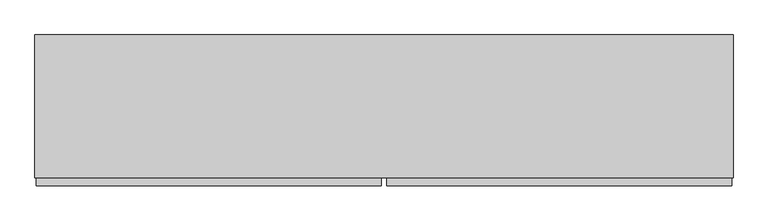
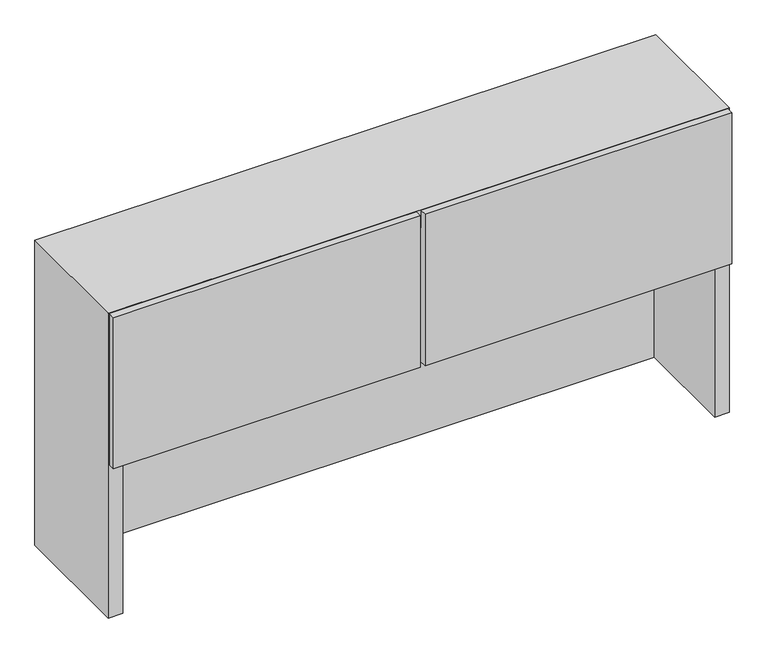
"""IFC4 building model written with IfcOpenShell, lengths in millimetres: furniture geometry, Haworth_XSeries_VerticalStorage : 14d 34h 66w - Flipper Doors."""

import ifcopenshell
import ifcopenshell.guid

model = None  # the IFC model being written
_history = None  # IfcOwnerHistory: only IFC2X3 demands one
_inside = {}  # id of a spatial element -> (the spatial element, [elements in it])
_under = {}  # id of a project, library or spatial element -> (it, [spatial elements below it])
_declared = {}  # id of a project -> (the project, [libraries it declares])
_typed = {}  # id of a type object -> (the type object, [elements of that type])
_made_of = {}  # id of a material, layer set ... -> (it, [elements and type objects made of it])


def new_model(schema):
    """Start an empty IFC model of exactly this schema.

    Asked for "IFC4X3", IfcOpenShell would pick the latest addendum, in which some entities
    have other attributes; the version numbers below select the first issue.
    IFC2X3 requires an IfcOwnerHistory on every rooted entity: one is made here for all.
    """
    global model, _history
    if schema == "IFC4X3":
        model = ifcopenshell.file(schema_version=(4, 3, 0, 0))
    else:
        model = ifcopenshell.file(schema=schema)
    _inside.clear()
    _under.clear()
    _declared.clear()
    _typed.clear()
    _made_of.clear()
    _history = None
    if model.schema == "IFC2X3":
        org = make("IfcOrganization", Name="unknown")
        user = make(
            "IfcPersonAndOrganization",
            ThePerson=make("IfcPerson", FamilyName="unknown"),
            TheOrganization=org,
        )
        app = make(
            "IfcApplication",
            ApplicationDeveloper=org,
            Version="unknown",
            ApplicationFullName="unknown",
            ApplicationIdentifier="unknown",
        )
        _history = make(
            "IfcOwnerHistory",
            OwningUser=user,
            OwningApplication=app,
            ChangeAction="ADDED",
            CreationDate=0,
        )
    return model


def make(cls, **values):
    """One entity of the class cls with the attributes given. An attribute that is None is left unset."""
    return model.create_entity(
        cls, **{name: value for name, value in values.items() if value is not None}
    )


def rooted(cls, **values):
    """An entity with a GlobalId (a new one), such as an element, a storey or a relation."""
    return make(cls, GlobalId=ifcopenshell.guid.new(), OwnerHistory=_history, **values)


def si_unit(unit_type, name, prefix=None):
    """IfcSIUnit, for example si_unit("LENGTHUNIT", "METRE", prefix="MILLI")."""
    return make("IfcSIUnit", UnitType=unit_type, Prefix=prefix, Name=name)


def assignment(units):
    """IfcUnitAssignment: the units of a project."""
    return None if units is None else make("IfcUnitAssignment", Units=units)


def point(xyz):
    """IfcCartesianPoint."""
    return None if xyz is None else make("IfcCartesianPoint", Coordinates=xyz)


def direction(xyz):
    """IfcDirection."""
    return None if xyz is None else make("IfcDirection", DirectionRatios=xyz)


def frame(location, z_axis=None, x_axis=None):
    """IfcAxis2Placement3D, a coordinate frame: its origin and axes. An axis left out is left unset."""
    return make(
        "IfcAxis2Placement3D",
        Location=point(location),
        Axis=direction(z_axis),
        RefDirection=direction(x_axis),
    )


def origin():
    """The frame at (0, 0, 0) with its axes left unset."""
    return frame((0.0, 0.0, 0.0))


def place(relative_to, where):
    """IfcLocalPlacement: puts the frame where relative to a parent placement (None: the world)."""
    return make(
        "IfcLocalPlacement", PlacementRelTo=relative_to, RelativePlacement=where
    )


def context(
    kind, dimensions, precision=None, world=None, true_north=None, identifier=None
):
    """IfcGeometricRepresentationContext, for example the 3D "Model" context."""
    return make(
        "IfcGeometricRepresentationContext",
        ContextIdentifier=identifier,
        ContextType=kind,
        CoordinateSpaceDimension=dimensions,
        Precision=precision,
        WorldCoordinateSystem=world,
        TrueNorth=true_north,
    )


def project(units=None, contexts=None):
    """IfcProject with its units and contexts."""
    return rooted(
        "IfcProject",
        Name="project",
        RepresentationContexts=contexts,
        UnitsInContext=assignment(units),
    )


def spatial(cls, under=None, at=None, **own):
    """A site, building, storey or space (cls), placed at a placement, below another one or the project."""
    s = rooted(cls, ObjectPlacement=at, **own)
    if under is not None:
        _under.setdefault(under.id(), (under, []))[1].append(s)
    return s


def polyline(points):
    """IfcPolyline through the points."""
    return make("IfcPolyline", Points=[point(p) for p in points])


def outline(outer, holes=None, kind="AREA"):
    """IfcArbitraryClosedProfileDef: a profile drawn as a closed curve; with holes, ...WithVoids."""
    if holes is None:
        return make("IfcArbitraryClosedProfileDef", ProfileType=kind, OuterCurve=outer)
    return make(
        "IfcArbitraryProfileDefWithVoids",
        ProfileType=kind,
        OuterCurve=outer,
        InnerCurves=holes,
    )


def extrude(swept, where, along, depth):
    """IfcExtrudedAreaSolid: the profile swept, set in the frame where, extruded along a direction by depth."""
    return make(
        "IfcExtrudedAreaSolid",
        SweptArea=swept,
        Position=where,
        ExtrudedDirection=direction(along),
        Depth=depth,
    )


def faces_of(points, faces, orient=None, outer=None):
    """IfcFace entities. A face is a list of loops; a loop is a list of indices into points, from 0.

    orient and outer hold one flag for each loop. By default every Orientation is true, the
    first loop of a face is its IfcFaceOuterBound and the others are IfcFaceBound.
    """
    made = []
    for i, loops in enumerate(faces):
        bounds = []
        for j, loop in enumerate(loops):
            is_outer = j == 0 if outer is None else outer[i][j]
            bounds.append(
                make(
                    "IfcFaceOuterBound" if is_outer else "IfcFaceBound",
                    Bound=make("IfcPolyLoop", Polygon=[points[k] for k in loop]),
                    Orientation=True if orient is None else orient[i][j],
                )
            )
        made.append(make("IfcFace", Bounds=bounds))
    return made


def faceted_brep(points, faces, orient=None, outer=None, voids=None):
    """IfcFacetedBrep: a solid bounded by flat faces; with voids (closed shells), ...WithVoids."""
    shared = [point(p) for p in points]
    hull = make("IfcClosedShell", CfsFaces=faces_of(shared, faces, orient, outer))
    if voids is None:
        return make("IfcFacetedBrep", Outer=hull)
    return make(
        "IfcFacetedBrepWithVoids",
        Outer=hull,
        Voids=[
            make(cls, CfsFaces=faces_of(shared, fs, o, b)) for cls, fs, o, b in voids
        ],
    )


def shape(context_of_items, identifier, shape_type, items):
    """IfcShapeRepresentation: the items that make up one representation, for example the "Body"."""
    return make(
        "IfcShapeRepresentation",
        ContextOfItems=context_of_items,
        RepresentationIdentifier=identifier,
        RepresentationType=shape_type,
        Items=items,
    )


def source(mapping_origin, context_of_items, identifier, shape_type, items):
    """IfcRepresentationMap: a shape defined once, which mapped items show again and again."""
    return make(
        "IfcRepresentationMap",
        MappingOrigin=mapping_origin,
        MappedRepresentation=shape(context_of_items, identifier, shape_type, items),
    )


def transform(
    local_origin,
    x_axis=None,
    y_axis=None,
    z_axis=None,
    scale=None,
    scale2=None,
    scale3=None,
    uniform=True,
):
    """IfcCartesianTransformationOperator3D, or its non-uniform kind. x_axis, y_axis, z_axis: its Axis1, 2, 3."""
    if uniform:
        return make(
            "IfcCartesianTransformationOperator3D",
            Axis1=direction(x_axis),
            Axis2=direction(y_axis),
            LocalOrigin=point(local_origin),
            Scale=scale,
            Axis3=direction(z_axis),
        )
    return make(
        "IfcCartesianTransformationOperator3DnonUniform",
        Axis1=direction(x_axis),
        Axis2=direction(y_axis),
        LocalOrigin=point(local_origin),
        Scale=scale,
        Axis3=direction(z_axis),
        Scale2=scale2,
        Scale3=scale3,
    )


def mapped(mapping_source, mapping_target):
    """IfcMappedItem: shows the shape of a source again, moved by a transform."""
    return make(
        "IfcMappedItem", MappingSource=mapping_source, MappingTarget=mapping_target
    )


def made_of(thing, what):
    """Note that an element or type object is made of a material, layer set ...; save() writes the relation."""
    if what is not None:
        _made_of.setdefault(what.id(), (what, []))[1].append(thing)
    return thing


def element(
    cls,
    number,
    at=None,
    inside=None,
    cuts=None,
    type_object=None,
    material=None,
    context=None,
    identifier="Body",
    shape_type=None,
    held_by="IfcProductDefinitionShape",
    body=None,
    shapes=None,
    **own,
):
    """One element of the class cls, such as IfcWall. Its Tag is "e" and its number.

    at: its placement. inside: the storey or other place that contains it. cuts: it is an
    opening in that element (IfcRelVoidsElement). A single representation is given by context,
    identifier, shape_type and body (its items); several are given by shapes. held_by: the class
    of the entity that holds the representations. save() writes the other relations.
    """
    e = rooted(cls, Tag="e%d" % number, ObjectPlacement=at, **own)
    if body is not None:
        shapes = [shape(context, identifier, shape_type, body)]
    if shapes is not None:
        e.Representation = make(held_by, Representations=shapes)
    if inside is not None:
        _inside.setdefault(inside.id(), (inside, []))[1].append(e)
    if cuts is not None:
        rooted(
            "IfcRelVoidsElement", RelatingBuildingElement=cuts, RelatedOpeningElement=e
        )
    if type_object is not None:
        _typed.setdefault(type_object.id(), (type_object, []))[1].append(e)
    return made_of(e, material)


def aggregate(whole, parts):
    """IfcRelAggregates: a whole, such as a stair, and the parts it consists of."""
    return rooted("IfcRelAggregates", RelatingObject=whole, RelatedObjects=parts)


def save(model, path):
    """Write the relations noted so far, then the file.

    IfcRelAggregates (storeys below a building ...), IfcRelContainedInSpatialStructure (elements
    in a storey), IfcRelDefinesByType, IfcRelAssociatesMaterial and IfcRelDeclares: one each for
    every whole, place, type object, material and project.
    """
    for whole, parts in _under.values():
        aggregate(whole, parts)
    for where, things in _inside.values():
        rooted(
            "IfcRelContainedInSpatialStructure",
            RelatedElements=things,
            RelatingStructure=where,
        )
    for kind, things in _typed.values():
        rooted("IfcRelDefinesByType", RelatedObjects=things, RelatingType=kind)
    for what, things in _made_of.values():
        rooted("IfcRelAssociatesMaterial", RelatedObjects=things, RelatingMaterial=what)
    for by, libraries in _declared.values():
        rooted("IfcRelDeclares", RelatingContext=by, RelatedDefinitions=libraries)
    model.write(path)


def furniture_912c82ef(model_context):
    return source(origin(), model_context, "Body", "SolidModel", [
        extrude(outline(polyline([(1076.325, -361.95), (247.65, -361.95), (247.65, -342.9), (1076.325, -342.9), (1076.325, -361.95)])), frame((0.0, 0.0, 1173.1625), z_axis=(0.0, 0.0, 1.0), x_axis=(1.0, 0.0, 0.0)), (0.0, 0.0, 1.0), 431.8),
        extrude(outline(polyline([(234.95, -361.95), (-593.725, -361.95), (-593.725, -342.9), (234.95, -342.9), (234.95, -361.95)])), frame((0.0, 0.0, 1173.1625), z_axis=(0.0, 0.0, 1.0), x_axis=(1.0, 0.0, 0.0)), (0.0, 0.0, 1.0), 431.8),
        extrude(outline(polyline([(-317.5, 1201.7158998), (-317.5, 1174.75), (-338.1375, 1174.75), (-338.1375, 1554.1625), (-331.7875, 1554.1625), (-331.7875, 1201.7158998), (-317.5, 1201.7158998)])), frame((222.25, 0.0, 0.0), z_axis=(1.0, 0.0, 0.0), x_axis=(0.0, 1.0, 0.0)), (0.0, 0.0, 1.0), 38.1),
        faceted_brep([(-596.9, 0.0, 1606.55), (-596.9, -342.9, 1606.55), (1079.5, -342.9, 1606.55), (1079.5, 0.0, 1606.55), (-558.00625, -342.9, 736.6), (-596.9, -342.9, 736.6), (-596.9, 0.0, 736.6), (1079.5, 0.0, 736.6), (1079.5, -342.9, 736.6), (1040.60625, -342.9, 736.6), (1040.60625, -60.325, 736.6), (-558.00625, -60.325, 736.6), (-558.00625, -342.9, 1554.1625), (1040.60625, -342.9, 1554.1625), (-558.00625, -60.325, 1174.75), (-558.00625, -31.75, 1174.75), (-558.00625, -31.75, 1554.1625), (1040.60625, -31.75, 1174.75), (1040.60625, -31.75, 1554.1625), (1040.60625, -60.325, 1174.75)], [[[0, 1, 2, 3]], [[4, 5, 6, 7, 8, 9, 10, 11]], [[6, 0, 3, 7]], [[1, 0, 6, 5]], [[2, 1, 5, 4, 12, 13, 9, 8]], [[4, 11, 14, 15, 16, 12]], [[15, 17, 18, 16]], [[10, 9, 13, 18, 17, 19]], [[3, 2, 8, 7]], [[13, 12, 16, 18]], [[17, 15, 14, 19]], [[11, 10, 19, 14]]]),
        extrude(outline(polyline([(-331.7875, 1223.9625), (-36.5125, 1223.9625), (-36.5125, 1174.75), (-53.975, 1174.75), (-53.975, 1219.2), (-298.45, 1219.2), (-298.45, 1174.75), (-317.5, 1174.75), (-317.5, 1166.8125), (-331.7875, 1166.8125), (-331.7875, 1223.9625)])), frame((-558.00625, 0.0, 0.0), z_axis=(1.0, 0.0, 0.0), x_axis=(0.0, 1.0, 0.0)), (0.0, 0.0, 1.0), 1598.6125),
    ])


if __name__ == "__main__":
    model = new_model("IFC4")
    model_context = context("Model", 3, world=origin())
    ifc_project = project(units=[si_unit("LENGTHUNIT", "METRE", prefix="MILLI")], contexts=[model_context])
    site = spatial("IfcSite", under=ifc_project)
    building = spatial("IfcBuilding", under=site)
    placement = place(None, origin())
    furniture_shape = furniture_912c82ef(model_context)
    element("IfcFurniture", 1, ObjectType="Haworth_XSeries_VerticalStorage : 14d 34h 66w - Flipper Doors", at=placement, inside=building, context=model_context, shape_type="MappedRepresentation", body=[
        mapped(furniture_shape, transform((0.0, 0.0, 0.0), x_axis=(1.0, 0.0, 0.0), y_axis=(0.0, 1.0, 0.0), z_axis=(0.0, 0.0, 1.0))),
    ])
    save(model, "model.ifc")
